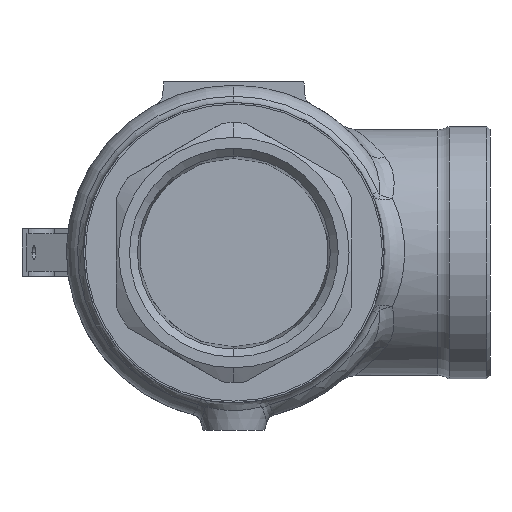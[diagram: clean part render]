
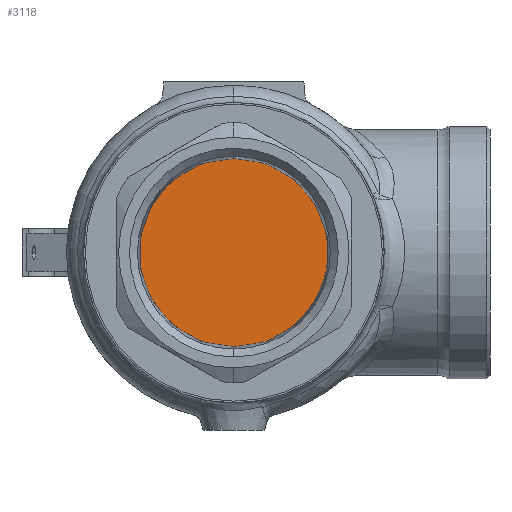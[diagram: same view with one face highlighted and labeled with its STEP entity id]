
A CAD part, front view. The second image highlights one B-rep face of the part: STEP entity #3118.
In plain terms, the highlighted planar face has unit normal (0, -1, 0).
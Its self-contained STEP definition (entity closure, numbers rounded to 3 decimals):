
#336 = EDGE_CURVE ( 'NONE', #1235, #2519, #6709, .T. ) ;
#700 = CARTESIAN_POINT ( 'NONE',  ( 0., -53., 27.6 ) ) ;
#1235 = VERTEX_POINT ( 'NONE', #700 ) ;
#1935 = AXIS2_PLACEMENT_3D ( 'NONE', #5972, #3374, #4898 ) ;
#2276 = ORIENTED_EDGE ( 'NONE', *, *, #4288, .F. ) ;
#2478 = DIRECTION ( 'NONE',  ( 0., 1., 0. ) ) ;
#2519 = VERTEX_POINT ( 'NONE', #3260 ) ;
#2645 = DIRECTION ( 'NONE',  ( 0., 0., 1. ) ) ;
#2711 = FACE_OUTER_BOUND ( 'NONE', #6529, .T. ) ;
#3118 = ADVANCED_FACE ( 'NONE', ( #2711 ), #5374, .F. ) ;
#3260 = CARTESIAN_POINT ( 'NONE',  ( 0., -53., -27.6 ) ) ;
#3374 = DIRECTION ( 'NONE',  ( 0., 1., 0. ) ) ;
#3789 = AXIS2_PLACEMENT_3D ( 'NONE', #5210, #2478, #4633 ) ;
#4131 = CIRCLE ( 'NONE', #3789, 27.6 ) ;
#4288 = EDGE_CURVE ( 'NONE', #2519, #1235, #4131, .T. ) ;
#4633 = DIRECTION ( 'NONE',  ( 0., 0., 1. ) ) ;
#4898 = DIRECTION ( 'NONE',  ( 0., 0., 1. ) ) ;
#5127 = ORIENTED_EDGE ( 'NONE', *, *, #336, .F. ) ;
#5210 = CARTESIAN_POINT ( 'NONE',  ( 0., -53., 0. ) ) ;
#5374 = PLANE ( 'NONE',  #6314 ) ;
#5972 = CARTESIAN_POINT ( 'NONE',  ( 0., -53., 0. ) ) ;
#5976 = DIRECTION ( 'NONE',  ( 0., 1., 0. ) ) ;
#6314 = AXIS2_PLACEMENT_3D ( 'NONE', #6377, #5976, #2645 ) ;
#6377 = CARTESIAN_POINT ( 'NONE',  ( -27.6, -53., 0. ) ) ;
#6529 = EDGE_LOOP ( 'NONE', ( #2276, #5127 ) ) ;
#6709 = CIRCLE ( 'NONE', #1935, 27.6 ) ;
